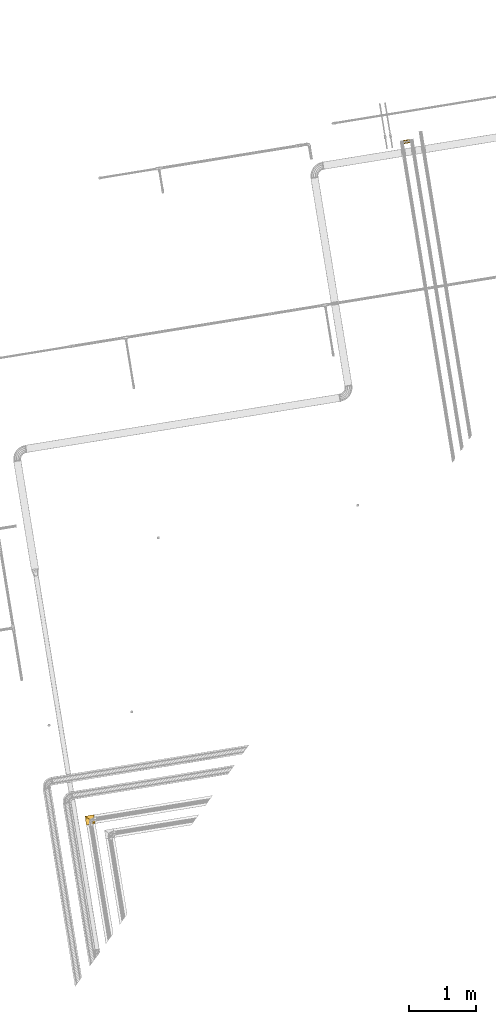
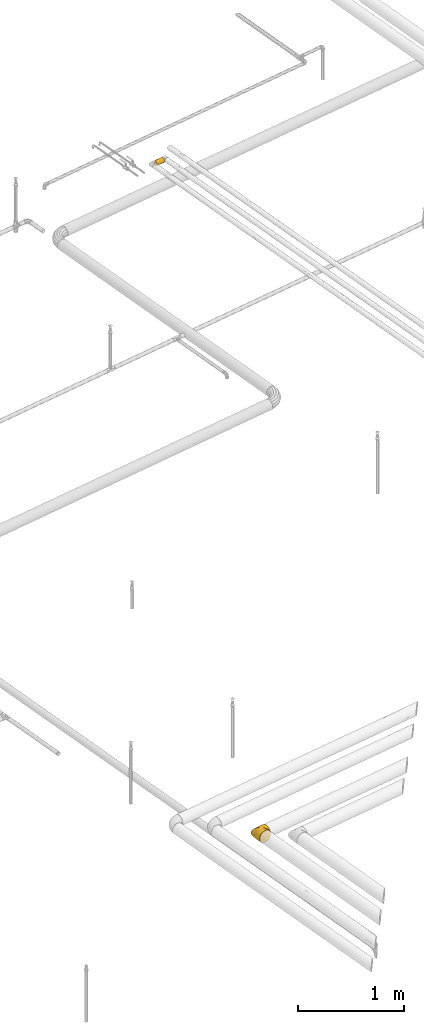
# One storey, part 14 of 46: 2 coverings.
"""IFC2X3 building model written with IfcOpenShell, lengths in millimetres."""

from ifc_helpers import new_model, entity, si_unit, converted_unit, derived_unit, direction, frame, origin, origin_with_axes, place, context, subcontext, project, spatial, faceted_brep, material, type_object, element, save


model = new_model("IFC2X3")

# Units and contexts
model_context = context("Model", 3, precision=0.01, world=origin(), true_north=direction((6.12323399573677e-17, 1.0)))
plan_context = context("Plan", 3, precision=1e-05, world=origin_with_axes())
body_context = subcontext(model_context, "Body", "Model", "MODEL_VIEW")
ifc_project = project(units=[converted_unit("PLANEANGLEUNIT", "DEGREE", entity("IfcPositiveLengthMeasure", 0.0174532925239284), si_unit("PLANEANGLEUNIT", "RADIAN"), dimensions=[0, 0, 0, 0, 0, 0, 0]), si_unit("AREAUNIT", "SQUARE_METRE"), si_unit("LENGTHUNIT", "METRE", prefix="MILLI"), si_unit("MASSUNIT", "GRAM", prefix="KILO"), si_unit("POWERUNIT", "WATT"), si_unit("PRESSUREUNIT", "PASCAL", prefix="KILO"), si_unit("FORCEUNIT", "NEWTON", prefix="KILO"), si_unit("ELECTRICVOLTAGEUNIT", "VOLT"), si_unit("ELECTRICCURRENTUNIT", "AMPERE"), si_unit("THERMODYNAMICTEMPERATUREUNIT", "DEGREE_CELSIUS"), si_unit("TIMEUNIT", "SECOND"), si_unit("VOLUMEUNIT", "CUBIC_METRE"), derived_unit("LINEARVELOCITYUNIT", [(si_unit("LENGTHUNIT", "METRE"), 1), (si_unit("TIMEUNIT", "SECOND"), -1)]), derived_unit("VOLUMETRICFLOWRATEUNIT", [(si_unit("VOLUMEUNIT", "CUBIC_METRE"), 1), (si_unit("TIMEUNIT", "SECOND"), -1)]), derived_unit("THERMALTRANSMITTANCEUNIT", [(si_unit("POWERUNIT", "WATT"), 1), (si_unit("THERMODYNAMICTEMPERATUREUNIT", "KELVIN"), -1), (si_unit("AREAUNIT", "SQUARE_METRE"), -1)]), derived_unit("SOUNDPRESSUREUNIT", [(si_unit("PRESSUREUNIT", "PASCAL"), 1)])], contexts=[model_context, plan_context])

# Site, building, storey
site_placement = place(None, frame((-3.09682673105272e-06, 1.93776733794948e-05, 0.0), z_axis=(0.0, 0.0, 1.0), x_axis=(-0.160806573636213, 0.986985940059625, 0.0)))
site = spatial("IfcSite", under=ifc_project, at=site_placement, Name="Default", CompositionType="ELEMENT")
building_placement = place(site_placement, frame((0.0, 0.0, 0.0), z_axis=(0.0, 0.0, 1.0), x_axis=(1.0, -2.77555756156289e-17, 0.0)))
building = spatial("IfcBuilding", under=site, at=building_placement, Name="Bygning (endres i Project Information)", CompositionType="ELEMENT")
storey_placement = place(building_placement, frame((0.0, 0.0, 51360.0000000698), z_axis=(0.0, 0.0, 1.0), x_axis=(1.0, -2.77555756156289e-17, 0.0)))
storey = spatial("IfcBuildingStorey", under=building, at=storey_placement, Name="H01-Nivå D+0,36", CompositionType="ELEMENT", Elevation=51360.0000000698)

# Coverings
ifc_material = material(Name="3200.002 Retur")
covering_type = type_object("IfcCoveringType", Name="Pipe Insulation:GLAVA Rørskål ClimPipe Alu2, isol.kl.4, 45°C", PredefinedType="INSULATION")
covering_1_placement = place(storey_placement, frame((1008458.00431554, -353612.080139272, 3420.90472775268), z_axis=(0.0, 0.0, 1.0), x_axis=(1.0, -2.77555756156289e-17, 0.0)))
element("IfcCovering", 1, at=covering_1_placement, inside=storey, type_object=covering_type, material=ifc_material, Name="Pipe Insulation:GLAVA Rørskål ClimPipe Alu2, isol.kl.4, 45°C", ObjectType="Pipe Insulation:GLAVA Rørskål ClimPipe Alu2, isol.kl.4, 45°C", PredefinedType="INSULATION", context=body_context, shape_type="Brep", body=[
    faceted_brep([(9.64983575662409, 0.0, 9.64983575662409), (15.3452722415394, 0.0, 5.27957363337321), (21.9777485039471, 0.0, 2.53231201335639), (29.0952722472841, 0.0, 1.5952722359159), (36.2127959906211, 0.0, 2.53231201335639), (42.8452722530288, 0.0, 5.27957363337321), (48.5407087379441, 0.0, 9.64983575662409), (52.910970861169, 0.0, 15.3452722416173), (55.6582324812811, 0.0, 21.977748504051), (56.5952722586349, 0.0, 29.0952722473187), (55.6582324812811, 0.0, 36.2127959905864), (52.910970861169, 0.0, 42.8452722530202), (48.5407087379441, 0.0, 48.5407087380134), (42.8452722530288, 0.0, 52.9109708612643), (36.2127959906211, 0.0, 55.6582324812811), (29.0952722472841, 0.0, 56.5952722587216), (21.9777485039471, 0.0, 55.6582324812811), (15.3452722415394, 0.0, 52.9109708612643), (9.64983575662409, 0.0, 48.5407087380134), (5.2795736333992, 0.0, 42.8452722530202), (2.53231201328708, 0.0, 36.2127959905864), (1.59527223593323, 0.0, 29.0952722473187), (2.53231201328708, 0.0, 21.977748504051), (5.2795736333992, 0.0, 15.3452722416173), (21.9777485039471, 92.0, 2.53231201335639), (15.3452722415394, 92.0, 5.27957363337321), (9.64983575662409, 92.0, 9.64983575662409), (5.2795736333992, 92.0, 15.3452722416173), (2.53231201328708, 92.0, 21.977748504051), (1.59527223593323, 92.0, 29.0952722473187), (2.53231201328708, 92.0, 36.2127959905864), (5.2795736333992, 92.0, 42.8452722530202), (9.64983575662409, 92.0, 48.5407087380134), (15.3452722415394, 92.0, 52.9109708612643), (21.9777485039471, 92.0, 55.6582324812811), (29.0952722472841, 92.0, 56.5952722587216), (36.2127959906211, 92.0, 55.6582324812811), (42.8452722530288, 92.0, 52.9109708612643), (48.5407087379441, 92.0, 48.5407087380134), (52.910970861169, 92.0, 42.8452722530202), (55.6582324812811, 92.0, 36.2127959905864), (56.5952722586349, 92.0, 29.0952722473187), (55.6582324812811, 92.0, 21.977748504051), (52.910970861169, 92.0, 15.3452722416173), (48.5407087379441, 92.0, 9.64983575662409), (42.8452722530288, 92.0, 5.27957363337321), (36.2127959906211, 92.0, 2.53231201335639), (29.0952722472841, 92.0, 1.5952722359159)], [[[0, 1, 2, 3, 4, 5, 6, 7, 8, 9, 10, 11, 12, 13, 14, 15, 16, 17, 18, 19, 20, 21, 22, 23]], [[24, 25, 26, 27, 28, 29, 30, 31, 32, 33, 34, 35, 36, 37, 38, 39, 40, 41, 42, 43, 44, 45, 46, 47]], [[28, 27, 23, 22]], [[29, 28, 22, 21]], [[27, 26, 0, 23]], [[2, 1, 25, 24]], [[3, 2, 24, 47]], [[26, 25, 1, 0]], [[4, 3, 47, 46]], [[5, 4, 46, 45]], [[45, 44, 6, 5]], [[8, 7, 43, 42]], [[9, 8, 42, 41]], [[44, 43, 7, 6]], [[10, 9, 41, 40]], [[11, 10, 40, 39]], [[39, 38, 12, 11]], [[14, 13, 37, 36]], [[15, 14, 36, 35]], [[38, 37, 13, 12]], [[16, 15, 35, 34]], [[17, 16, 34, 33]], [[33, 32, 18, 17]], [[20, 19, 31, 30]], [[21, 20, 30, 29]], [[32, 31, 19, 18]]]),
])
covering_2_placement = place(storey_placement, frame((999236.809536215, -347373.994427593, 3369.90472776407), z_axis=(0.0, 0.0, 1.0), x_axis=(1.0, -2.77555756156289e-17, 0.0)))
element("IfcCovering", 2, at=covering_2_placement, inside=storey, type_object=covering_type, material=ifc_material, Name="Pipe Insulation:GLAVA Rørskål ClimPipe Alu2, isol.kl.4, 45°C", ObjectType="Pipe Insulation:GLAVA Rørskål ClimPipe Alu2, isol.kl.4, 45°C", PredefinedType="INSULATION", context=body_context, shape_type="Brep", body=[
    faceted_brep([(1.59527223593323, 1.59527223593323, 91.711238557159), (1.59527223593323, 76.5952722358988, 91.711238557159), (1.59527223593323, 76.5952722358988, 48.4793059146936), (1.59527223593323, 1.59527223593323, 48.4793059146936), (49.6488778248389, 76.5952722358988, 3.72457300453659), (33.7580719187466, 76.5952722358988, 9.97898263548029), (19.9085004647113, 76.5952722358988, 19.9694770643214), (8.96098181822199, 76.5952722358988, 33.074486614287), (8.96098181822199, 76.5952722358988, 107.116057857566), (19.9085004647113, 76.5952722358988, 120.221067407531), (33.7580719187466, 76.5952722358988, 130.211561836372), (49.6488778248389, 76.5952722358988, 136.465971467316), (66.5952722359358, 76.5952722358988, 138.595272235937), (84.3243768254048, 76.5952722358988, 136.261191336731), (100.845272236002, 76.5952722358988, 129.418012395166), (115.032086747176, 76.5952722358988, 118.53208674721), (125.918012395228, 76.5952722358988, 104.345272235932), (132.761191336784, 76.5952722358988, 87.8243768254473), (135.095272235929, 76.5952722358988, 70.0952722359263), (132.761191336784, 76.5952722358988, 52.3661676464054), (125.918012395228, 76.5952722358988, 35.8452722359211), (115.032086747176, 76.5952722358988, 21.6584577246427), (100.845272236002, 76.5952722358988, 10.7725320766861), (84.3243768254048, 76.5952722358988, 3.92935313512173), (66.5952722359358, 76.5952722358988, 1.5952722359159), (8.96098181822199, 1.59527223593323, 107.116057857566), (19.9085004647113, 1.59527223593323, 120.221067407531), (33.758071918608, 1.59527223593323, 130.211561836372), (49.6488778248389, 1.59527223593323, 136.465971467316), (66.5952722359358, 1.59527223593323, 138.595272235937), (84.3243768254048, 1.59527223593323, 136.261191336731), (100.845272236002, 1.59527223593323, 129.418012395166), (115.032086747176, 1.59527223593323, 118.53208674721), (125.918012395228, 1.59527223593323, 104.345272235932), (132.761191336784, 1.59527223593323, 87.8243768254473), (135.095272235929, 1.59527223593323, 70.0952722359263), (132.761191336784, 1.59527223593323, 52.3661676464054), (125.918012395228, 1.59527223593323, 35.8452722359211), (115.032086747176, 1.59527223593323, 21.6584577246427), (100.845272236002, 1.59527223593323, 10.7725320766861), (84.3243768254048, 1.59527223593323, 3.92935313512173), (66.5952722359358, 1.59527223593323, 1.5952722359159), (49.6488778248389, 1.59527223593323, 3.72457300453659), (33.758071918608, 1.59527223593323, 9.97898263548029), (19.9085004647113, 1.59527223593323, 19.9694770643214), (8.96098181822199, 1.59527223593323, 33.074486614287)], [[[0, 1, 2, 3]], [[4, 5, 6, 7, 2, 1, 8, 9, 10, 11, 12, 13, 14, 15, 16, 17, 18, 19, 20, 21, 22, 23, 24]], [[25, 26, 9, 8]], [[0, 25, 8, 1]], [[26, 27, 10, 9]], [[10, 27, 28, 11]], [[11, 28, 29, 12]], [[13, 30, 31, 14]], [[14, 31, 32, 15]], [[12, 29, 30, 13]], [[16, 33, 34, 17]], [[17, 34, 35, 18]], [[15, 32, 33, 16]], [[19, 36, 37, 20]], [[20, 37, 38, 21]], [[35, 36, 19, 18]], [[22, 39, 40, 23]], [[23, 40, 41, 24]], [[21, 38, 39, 22]], [[24, 41, 42, 4]], [[4, 42, 43, 5]], [[43, 44, 6, 5]], [[6, 44, 45, 7]], [[7, 45, 3, 2]], [[28, 27, 26, 25, 0, 3, 45, 44, 43, 42, 41, 40, 39, 38, 37, 36, 35, 34, 33, 32, 31, 30, 29]]]),
    faceted_brep([(76.5952722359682, 1.59527223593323, 48.4793059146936), (76.5952722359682, 1.59527223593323, 91.711238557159), (1.59527223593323, 1.59527223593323, 91.711238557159), (1.59527223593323, 1.59527223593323, 48.4793059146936), (76.5952722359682, 84.3243768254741, 3.92935313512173), (76.5952722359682, 100.845272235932, 10.7725320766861), (76.5952722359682, 115.032086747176, 21.6584577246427), (76.5952722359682, 125.918012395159, 35.8452722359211), (76.5952722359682, 132.761191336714, 52.3661676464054), (76.5952722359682, 135.095272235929, 70.0952722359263), (76.5952722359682, 132.761191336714, 87.8243768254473), (76.5952722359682, 125.918012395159, 104.345272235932), (76.5952722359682, 115.032086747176, 118.53208674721), (76.5952722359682, 100.845272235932, 129.418012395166), (76.5952722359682, 84.3243768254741, 136.261191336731), (76.5952722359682, 66.5952722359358, 138.595272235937), (76.5952722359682, 49.6488778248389, 136.465971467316), (76.5952722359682, 33.7580719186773, 130.211561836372), (76.5952722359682, 19.9085004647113, 120.221067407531), (76.5952722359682, 8.96098181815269, 107.116057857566), (76.5952722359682, 8.96098181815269, 33.074486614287), (76.5952722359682, 19.9085004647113, 19.9694770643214), (76.5952722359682, 33.7580719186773, 9.97898263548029), (76.5952722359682, 49.6488778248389, 3.72457300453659), (76.5952722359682, 66.5952722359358, 1.5952722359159), (1.59527223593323, 135.095272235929, 70.0952722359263), (1.59527223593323, 132.761191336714, 87.8243768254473), (1.59527223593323, 125.918012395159, 104.345272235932), (1.59527223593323, 115.032086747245, 118.53208674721), (1.59527223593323, 100.845272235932, 129.418012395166), (1.59527223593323, 84.3243768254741, 136.261191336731), (1.59527223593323, 66.5952722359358, 138.595272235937), (1.59527223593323, 49.6488778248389, 136.465971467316), (1.59527223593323, 33.7580719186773, 130.211561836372), (1.59527223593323, 19.9085004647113, 120.221067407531), (1.59527223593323, 8.96098181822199, 107.116057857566), (1.59527223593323, 8.96098181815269, 33.074486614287), (1.59527223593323, 19.9085004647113, 19.9694770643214), (1.59527223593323, 33.7580719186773, 9.97898263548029), (1.59527223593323, 49.6488778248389, 3.72457300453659), (1.59527223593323, 66.5952722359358, 1.5952722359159), (1.59527223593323, 84.3243768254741, 3.92935313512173), (1.59527223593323, 100.845272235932, 10.7725320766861), (1.59527223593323, 115.032086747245, 21.6584577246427), (1.59527223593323, 125.918012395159, 35.8452722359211), (1.59527223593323, 132.761191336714, 52.3661676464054)], [[[0, 1, 2, 3]], [[4, 5, 6, 7, 8, 9, 10, 11, 12, 13, 14, 15, 16, 17, 18, 19, 1, 0, 20, 21, 22, 23, 24]], [[25, 26, 10, 9]], [[12, 11, 27, 28]], [[27, 11, 10, 26]], [[13, 29, 30, 14]], [[14, 30, 31, 15]], [[12, 28, 29, 13]], [[15, 31, 32, 16]], [[16, 32, 33, 17]], [[33, 34, 18, 17]], [[18, 34, 35, 19]], [[19, 35, 2, 1]], [[0, 3, 36, 20]], [[20, 36, 37, 21]], [[37, 38, 22, 21]], [[22, 38, 39, 23]], [[23, 39, 40, 24]], [[4, 41, 42, 5]], [[5, 42, 43, 6]], [[40, 41, 4, 24]], [[7, 44, 45, 8]], [[8, 45, 25, 9]], [[6, 43, 44, 7]], [[2, 35, 34, 33, 32, 31, 30, 29, 28, 27, 26, 25, 45, 44, 43, 42, 41, 40, 39, 38, 37, 36, 3]]]),
    faceted_brep([(1.59527223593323, 25.6264791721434, 123.109968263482), (1.59527223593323, 44.9502339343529, 133.502624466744), (1.59527223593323, 66.5952722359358, 137.095272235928), (1.59527223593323, 79.4151672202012, 134.545236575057), (1.59527223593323, 92.2350622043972, 131.995200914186), (1.59527223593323, 103.103244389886, 124.73331374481), (1.59527223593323, 113.971426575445, 117.471426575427), (1.59527223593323, 121.233313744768, 106.603244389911), (1.59527223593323, 128.49520091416, 95.7350622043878), (1.59527223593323, 131.045236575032, 82.915167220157), (1.59527223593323, 133.595272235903, 70.0952722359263), (1.59527223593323, 131.045236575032, 57.2753772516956), (1.59527223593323, 128.49520091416, 44.4554822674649), (1.59527223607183, 121.233313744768, 33.5873000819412), (1.59527223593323, 113.971426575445, 22.7191178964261), (1.59527223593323, 103.103244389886, 15.4572307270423), (1.59527223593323, 92.2350622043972, 8.19534355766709), (1.59527223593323, 79.4151672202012, 5.64530789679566), (1.59527223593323, 66.5952722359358, 3.09527223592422), (1.59527223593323, 44.9502339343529, 6.68792000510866), (1.59527223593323, 1.83080768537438, 53.0414614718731), (1.59527223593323, 1.79590397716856, 53.1197400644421), (1.59527223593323, 1.76100026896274, 53.1980186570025), (1.59527223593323, 1.76100026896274, 86.9925258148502), (1.59527223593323, 1.79590397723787, 87.0708044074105), (1.59527223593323, 1.83080768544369, 87.1490829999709), (1.59527223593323, 1.90061510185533, 87.3056401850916), (1.59527223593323, 1.97042251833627, 87.4621973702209), (1.59527223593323, 2.04022993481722, 87.6187545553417), (1.59527223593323, 2.1798447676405, 87.9318689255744), (1.59527223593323, 2.31945960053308, 88.2449832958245), (1.59527223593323, 2.45907443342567, 88.5580976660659), (1.59527223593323, 2.59868926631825, 88.871212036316), (1.59527223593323, 2.87791893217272, 89.4974407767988), (1.59527223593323, 14.4288819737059, 111.051376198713), (1.59527223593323, 18.1614143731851, 115.070906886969), (1.59527223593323, 25.6264791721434, 17.0805762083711), (1.59527223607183, 18.1614143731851, 25.1196375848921), (1.59527223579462, 14.4288819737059, 29.1391682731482), (1.59527223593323, 10.6963495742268, 33.1586989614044), (1.59527223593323, 8.46251224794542, 38.1685288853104), (1.59527223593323, 7.34559358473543, 40.6734438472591), (1.59527223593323, 6.22867492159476, 43.1783588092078), (1.59527223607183, 5.67021559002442, 44.4308162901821), (1.59527223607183, 5.11175625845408, 45.6832737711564), (1.59527223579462, 4.55329692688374, 46.9357312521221), (1.59527223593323, 3.9948375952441, 48.1881887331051), (1.59527223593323, 3.71560792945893, 48.8144174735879), (1.59527223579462, 3.43637826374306, 49.4406462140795), (1.59527223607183, 3.15714859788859, 50.0668749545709), (1.59527223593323, 2.87791893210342, 50.6931036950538), (1.59527223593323, 2.59868926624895, 51.3193324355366), (1.59527223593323, 2.45907443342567, 51.6324468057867), (1.59527223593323, 2.31945960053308, 51.9455611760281), (1.59527223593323, 2.1798447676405, 52.2586755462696), (1.59527223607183, 2.04022993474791, 52.5717899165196), (1.59527223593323, 3.43637826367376, 90.7498982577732), (1.59527223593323, 3.71560792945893, 91.3761269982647), (1.59527223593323, 3.9948375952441, 92.0023557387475), (1.59527223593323, 4.55329692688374, 93.2548132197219), (1.59527223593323, 5.11175625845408, 94.5072707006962), (1.59527223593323, 5.67021559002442, 95.7597281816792), (1.59527223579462, 6.22867492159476, 97.0121856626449), (1.59527223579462, 7.34559358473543, 99.5171006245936), (1.59527223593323, 8.46251224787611, 102.022015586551), (1.59527223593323, 10.6963495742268, 107.031845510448), (131.312302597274, 1.59527223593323, 52.7543962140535), (133.595272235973, 1.59527223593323, 70.0952722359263), (131.312302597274, 1.59527223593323, 87.4361482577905), (124.618974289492, 1.59527223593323, 103.595272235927), (113.971426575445, 1.59527223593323, 117.471426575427), (100.095272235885, 1.59527223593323, 128.118974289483), (83.9361482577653, 1.59527223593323, 134.812302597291), (66.5952722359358, 1.59527223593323, 137.095272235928), (52.0191646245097, 1.59527223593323, 135.490509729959), (38.1413015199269, 1.59527223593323, 130.753095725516), (25.6264791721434, 1.59527223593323, 123.109968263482), (15.0741996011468, 1.59527223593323, 112.927258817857), (6.98995243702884, 1.59527223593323, 100.692753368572), (1.76100026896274, 1.59527223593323, 86.9925258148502), (1.76100026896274, 1.59527223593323, 53.1980186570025), (6.98995243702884, 1.59527223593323, 39.497791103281), (15.0741996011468, 1.59527223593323, 27.2632856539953), (25.6264791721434, 1.59527223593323, 17.0805762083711), (38.1413015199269, 1.59527223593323, 9.43744874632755), (52.0191646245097, 1.59527223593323, 4.70003474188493), (66.5952722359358, 1.59527223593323, 3.09527223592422), (83.9361482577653, 1.59527223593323, 5.37824187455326), (100.095272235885, 1.59527223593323, 12.0715701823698), (113.971426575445, 1.59527223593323, 22.7191178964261), (124.618974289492, 1.59527223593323, 36.5952722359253), (1.76100026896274, 1.76100026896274, 86.9925258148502), (1.76100026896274, 1.76100026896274, 53.1980186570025), (15.0741996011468, 15.0741996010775, 27.2632856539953), (25.6264791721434, 25.6264791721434, 17.0805762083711), (6.98995243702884, 6.98995243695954, 39.497791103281), (9.01101422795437, 9.01101422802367, 36.4391647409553), (11.0320760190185, 11.0320760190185, 33.3805383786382), (1.80185145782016, 1.80185145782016, 53.0909856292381), (1.84270264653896, 1.84270264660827, 52.9839526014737), (1.88355383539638, 1.88355383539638, 52.8769195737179), (1.92440502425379, 1.92440502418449, 52.7698865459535), (2.00610740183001, 2.00610740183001, 52.5558204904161), (2.08780977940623, 2.08780977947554, 52.341754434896), (2.25121453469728, 2.25121453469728, 51.9136223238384), (2.41461928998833, 2.41461928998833, 51.4854902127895), (2.57802404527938, 2.57802404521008, 51.0573581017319), (2.74142880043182, 2.74142880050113, 50.6292259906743), (3.06823831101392, 3.06823831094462, 49.7729617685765), (3.39504782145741, 3.39504782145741, 48.9166975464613), (3.7218573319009, 3.7218573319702, 48.0604333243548), (4.3754763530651, 4.37547635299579, 46.3479048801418), (5.02909537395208, 5.02909537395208, 44.6353764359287), (5.68271439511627, 5.68271439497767, 42.9228479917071), (52.0191646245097, 52.019164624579, 4.70003474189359), (66.5952722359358, 66.5952722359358, 3.09527223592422), (38.1413015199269, 38.1413015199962, 9.43744874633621), (83.9361482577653, 83.9361482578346, 5.37824187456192), (100.095272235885, 100.095272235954, 12.0715701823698), (113.971426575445, 113.971426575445, 22.7191178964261), (124.618974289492, 124.618974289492, 36.5952722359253), (131.312302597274, 131.312302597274, 52.7543962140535), (133.595272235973, 133.595272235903, 70.0952722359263), (131.312302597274, 131.312302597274, 87.4361482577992), (124.618974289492, 124.618974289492, 103.595272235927), (113.971426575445, 113.971426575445, 117.471426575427), (100.095272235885, 100.095272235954, 128.118974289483), (83.9361482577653, 83.9361482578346, 134.812302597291), (66.5952722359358, 66.5952722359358, 137.095272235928), (52.0191646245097, 52.019164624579, 135.490509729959), (38.1413015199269, 38.1413015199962, 130.753095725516), (25.6264791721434, 25.6264791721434, 123.109968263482), (6.98995243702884, 6.98995243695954, 100.692753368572), (5.68271439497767, 5.68271439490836, 97.2676964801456), (5.02909537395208, 5.02909537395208, 95.5551680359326), (4.3754763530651, 4.37547635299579, 93.8426395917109), (3.72185733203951, 3.7218573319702, 92.1301111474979), (3.3950478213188, 3.39504782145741, 91.2738469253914), (3.06823831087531, 3.06823831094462, 90.4175827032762), (2.74142880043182, 2.74142880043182, 89.5613184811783), (2.57802404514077, 2.57802404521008, 89.1331863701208), (2.41461928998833, 2.41461928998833, 88.7050542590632), (2.25121453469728, 2.25121453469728, 88.2769221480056), (2.08780977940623, 2.08780977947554, 87.8487900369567), (2.00610740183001, 2.00610740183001, 87.6347239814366), (1.92440502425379, 1.92440502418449, 87.4206579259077), (1.88355383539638, 1.88355383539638, 87.3136248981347), (1.84270264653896, 1.84270264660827, 87.206591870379), (1.80185145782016, 1.80185145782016, 87.0995588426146), (15.0741996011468, 15.0741996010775, 112.927258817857), (11.0320760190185, 11.0320760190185, 106.810006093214), (9.01101422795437, 9.01101422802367, 103.751379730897), (1.59527223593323, 1.97042251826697, 52.7283471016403), (1.59527223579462, 1.90061510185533, 52.884904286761), (1.59527223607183, 3.15714859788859, 90.1236695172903)], [[[0, 1, 2, 3, 4, 5, 6, 7, 8, 9, 10, 11, 12, 13, 14, 15, 16, 17, 18, 19, 20, 21, 22, 23, 24, 25, 26, 27, 28, 29, 30, 31, 32, 33, 34, 35]], [[19, 36, 37, 38, 39, 40, 41, 42, 43, 44, 45, 46, 47, 48, 49, 50, 51, 52, 53, 54, 55]], [[34, 56, 57, 58, 59, 60, 61, 62, 63, 64, 65]], [[66, 67, 68, 69, 70, 71, 72, 73, 74, 75, 76, 77, 78, 79, 80, 81, 82, 83, 84, 85, 86, 87, 88, 89, 90]], [[80, 79, 91, 92]], [[82, 93, 94, 83]], [[82, 81, 95, 96, 97, 93]], [[80, 92, 98, 81]], [[81, 99, 100, 101, 102, 103, 104, 105, 106, 107, 108, 109, 110, 111, 112, 113, 95]], [[114, 115, 86, 85]], [[116, 114, 85, 84]], [[94, 116, 84, 83]], [[87, 86, 115, 117]], [[88, 87, 117, 118]], [[118, 119, 89, 88]], [[66, 90, 120, 121]], [[67, 66, 121, 122]], [[119, 120, 90, 89]], [[67, 122, 123, 68]], [[68, 123, 124, 69]], [[69, 124, 125, 70]], [[70, 125, 126, 71]], [[71, 126, 127, 72]], [[128, 73, 72, 127]], [[129, 130, 75, 74]], [[128, 129, 74, 73]], [[75, 130, 131, 76]], [[78, 132, 133, 134, 135, 136, 137, 138, 139, 140, 141, 142, 143, 144, 145, 146, 147]], [[91, 79, 78, 148]], [[77, 149, 150, 151, 132, 78]], [[76, 131, 149, 77]], [[92, 91, 23, 22]], [[112, 43, 113]], [[110, 45, 111]], [[111, 45, 44]], [[39, 97, 96]], [[110, 109, 47]], [[95, 40, 96]], [[94, 93, 37]], [[38, 97, 39]], [[37, 36, 94]], [[93, 38, 37]], [[116, 36, 19]], [[41, 113, 43, 42]], [[39, 96, 40]], [[114, 19, 18]], [[97, 38, 93]], [[114, 116, 19]], [[115, 114, 18]], [[95, 41, 40]], [[112, 111, 44]], [[36, 116, 94]], [[50, 107, 106]], [[113, 41, 95]], [[109, 108, 48]], [[45, 110, 47, 46]], [[54, 53, 52, 104]], [[112, 44, 43]], [[108, 49, 48]], [[107, 49, 108]], [[106, 105, 51]], [[49, 107, 50]], [[109, 48, 47]], [[152, 55, 102]], [[105, 52, 51]], [[104, 52, 105]], [[50, 106, 51]], [[104, 103, 54]], [[99, 20, 153]], [[103, 55, 54]], [[102, 101, 152]], [[55, 103, 102]], [[98, 21, 20]], [[101, 153, 152]], [[153, 101, 100, 99]], [[21, 92, 22]], [[20, 99, 98]], [[92, 21, 98]], [[118, 16, 15]], [[115, 17, 117]], [[16, 118, 117]], [[15, 119, 118]], [[13, 119, 14]], [[17, 16, 117]], [[14, 119, 15]], [[17, 115, 18]], [[119, 13, 120]], [[10, 122, 11]], [[12, 121, 120]], [[122, 121, 11]], [[121, 12, 11]], [[13, 12, 120]], [[122, 9, 123]], [[9, 122, 10]], [[7, 6, 125]], [[7, 125, 124]], [[124, 8, 7]], [[123, 8, 124]], [[5, 4, 126]], [[5, 125, 6]], [[125, 5, 126]], [[9, 8, 123]], [[2, 128, 3]], [[4, 127, 126]], [[128, 127, 3]], [[127, 4, 3]], [[129, 2, 1]], [[132, 64, 63]], [[0, 130, 1]], [[131, 130, 0]], [[149, 35, 34]], [[129, 128, 2]], [[130, 129, 1]], [[65, 151, 150]], [[63, 62, 61, 133]], [[139, 138, 154]], [[34, 65, 150]], [[59, 58, 57, 136]], [[135, 59, 136]], [[151, 65, 64]], [[149, 34, 150]], [[63, 133, 132]], [[131, 35, 149]], [[134, 61, 60]], [[35, 131, 0]], [[135, 60, 59]], [[64, 132, 151]], [[60, 135, 134]], [[142, 141, 31]], [[137, 57, 56]], [[154, 33, 139]], [[133, 61, 134]], [[138, 56, 154]], [[56, 138, 137]], [[28, 144, 143]], [[140, 33, 32]], [[31, 30, 29, 142]], [[33, 140, 139]], [[136, 57, 137]], [[141, 32, 31]], [[26, 147, 146, 145]], [[32, 141, 140]], [[143, 29, 28]], [[142, 29, 143]], [[25, 148, 147]], [[27, 144, 28]], [[145, 27, 26]], [[144, 27, 145]], [[24, 91, 148]], [[147, 26, 25]], [[91, 24, 23]], [[148, 25, 24]], [[34, 33, 154]], [[34, 154, 56]], [[19, 55, 152, 153]], [[19, 153, 20]], [[81, 98, 99]], [[78, 147, 148]]]),
])

save(model, "model.ifc")
